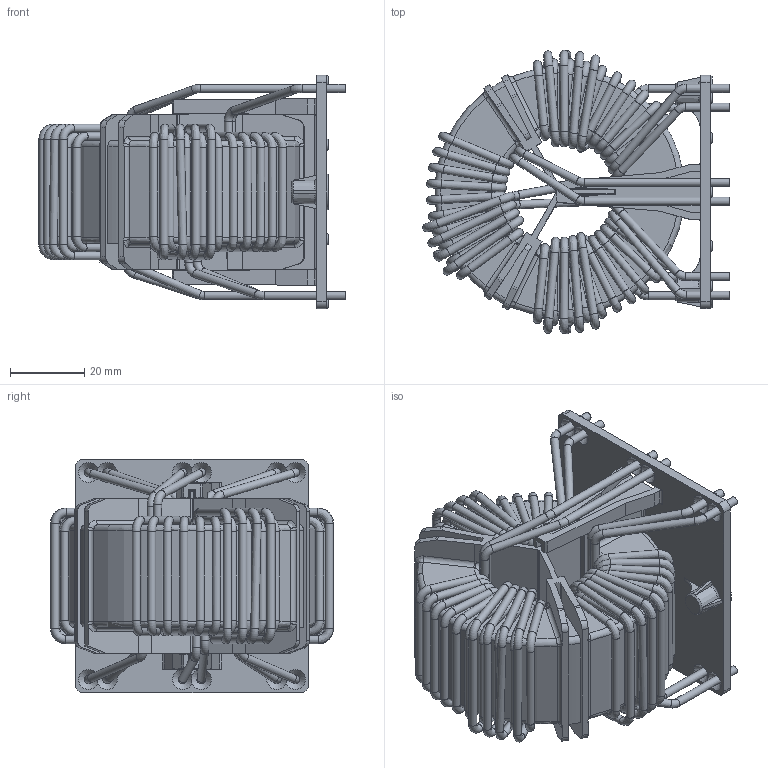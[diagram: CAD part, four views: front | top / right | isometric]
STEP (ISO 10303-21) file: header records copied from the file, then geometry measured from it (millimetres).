
FILE_DESCRIPTION((''),'2;1');
FILE_NAME('K:\Development\Projects\RB\Angel_standard choke series 2011\70_Realization_Revision\702_MechanicalDesign\RB8532-36-0M8 for customer_包覆面提取_1.stp','2013-03-29T13:58:51',('Bin.Fan'),(''),'Autodesk Inventor 2010','Autodesk Inventor 2010','');
FILE_SCHEMA(('AUTOMOTIVE_DESIGN { 1 0 10303 214 1 1 1 1 }'));
Length unit declared in the file: millimetre
Products named in the file (1): RB8532-36-0M8  for customer_包覆面提取_1
Bounding box: 82.68 x 76.46 x 63 mm (x, y, z)
Surface area: 66584.8 mm2 (no closed solid volume)
Topology: 0 solids, 1 shells, 1292 faces, 3796 edges, 2309 vertices
Faces by surface type: plane 414, cylinder 334, torus 262, bspline 248, cone 34
Full cylindrical faces by diameter (mm): 2.2 x132, 2.4 x12, 3 x10, 9.6 x1
Entity records: 52856 total; most frequent: CARTESIAN_POINT 22028, ORIENTED_EDGE 6460, DIRECTION 5472, EDGE_CURVE 3230, AXIS2_PLACEMENT_3D 2132, VERTEX_POINT 2086, EDGE_LOOP 1660, STYLED_ITEM 1262
